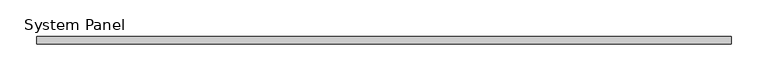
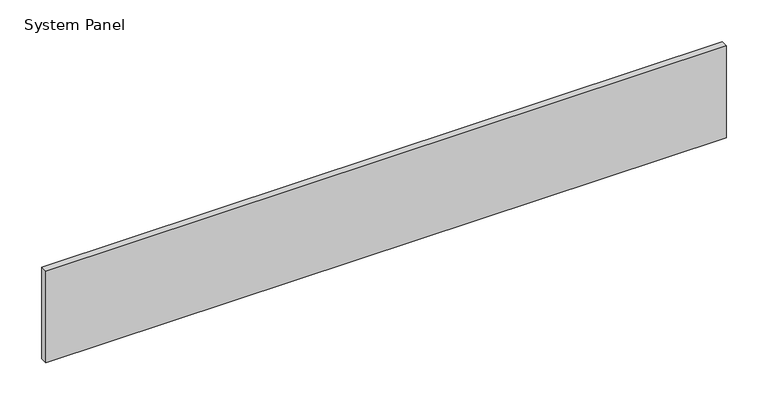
"""IFC4 building model written with IfcOpenShell, lengths in millimetres: plate geometry, System Panel : VACÍO."""

from ifc_helpers import new_model, si_unit, origin, origin_with_axes, place, context, project, spatial, polyline, outline, extrude, source, transform, mapped, element, save


def system_panel_792cbea5(model_context):
    return source(origin(), model_context, "Body", "SweptSolid", [
        extrude(outline(polyline([(470.4861372, -5.0), (-470.4861372, -5.0), (-470.4861372, 5.0), (470.4861372, 5.0), (470.4861372, -5.0)])), origin_with_axes(), (0.0, 0.0, 1.0), 134.0),
    ])


if __name__ == "__main__":
    model = new_model("IFC4")
    model_context = context("Model", 3, world=origin())
    ifc_project = project(units=[si_unit("LENGTHUNIT", "METRE", prefix="MILLI")], contexts=[model_context])
    site = spatial("IfcSite", under=ifc_project)
    building = spatial("IfcBuilding", under=site)
    placement = place(None, origin())
    system_panel_shape = system_panel_792cbea5(model_context)
    element("IfcPlate", 1, ObjectType="System Panel : VACÍO", at=placement, inside=building, context=model_context, shape_type="MappedRepresentation", body=[
        mapped(system_panel_shape, transform((0.0, 0.0, 0.0), x_axis=(1.0, 0.0, 0.0), y_axis=(0.0, 1.0, 0.0), z_axis=(0.0, 0.0, 1.0))),
    ])
    save(model, "model.ifc")
